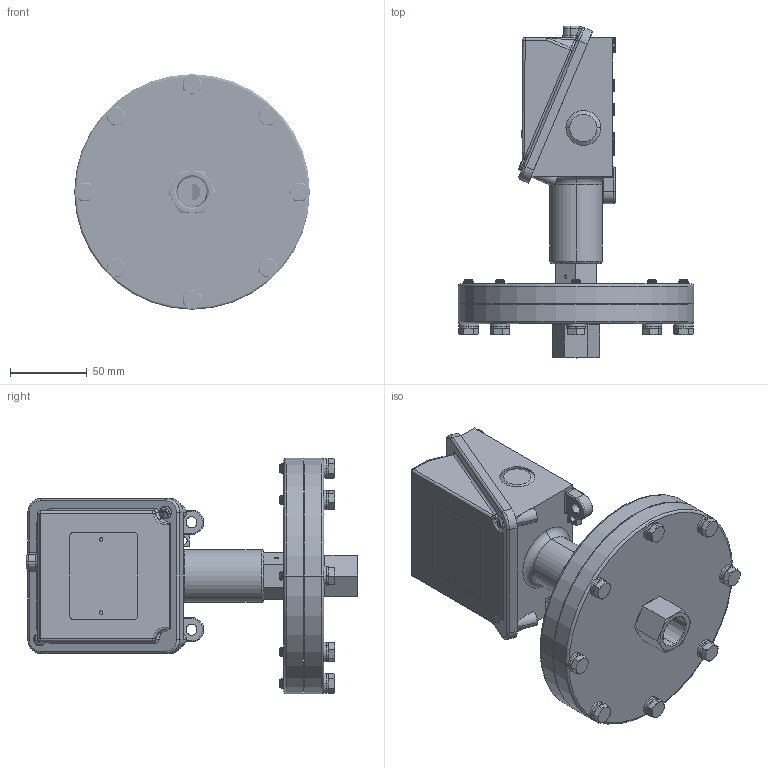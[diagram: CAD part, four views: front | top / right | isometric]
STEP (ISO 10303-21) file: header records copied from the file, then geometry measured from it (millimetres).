
FILE_DESCRIPTION (( 'STEP AP214' ), '1' );
FILE_NAME ('H100-520_525_V1.STEP', '2025-02-21T18:45:16', ( '' ), ( '' ), 'SwSTEP 2.0', 'SolidWorks 2023', '' );
FILE_SCHEMA (( 'AUTOMOTIVE_DESIGN' ));
Length unit declared in the file: inch
Products named in the file (1): H100-520_525_V1
Bounding box: 153.16 x 215.86 x 153.16 mm (x, y, z)
Volume: 621143.9 mm3; surface area: 226346.8 mm2
Topology: 34 solids, 34 shells, 1627 faces, 4053 edges, 2521 vertices
Faces by surface type: cylinder 882, plane 384, cone 140, torus 125, bspline 60, sphere 36
Entity records: 81122 total; most frequent: CARTESIAN_POINT 44350, ORIENTED_EDGE 8018, DIRECTION 7340, EDGE_CURVE 4009, AXIS2_PLACEMENT_3D 2871, VERTEX_POINT 2521, EDGE_LOOP 1778, FACE_OUTER_BOUND 1627
